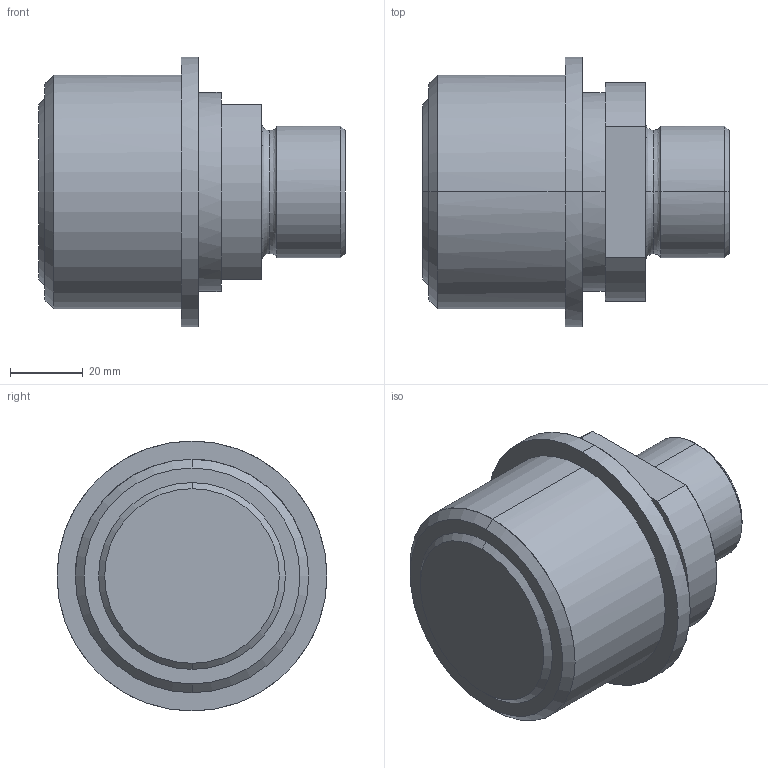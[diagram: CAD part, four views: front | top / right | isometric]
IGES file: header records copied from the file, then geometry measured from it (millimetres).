
Start section: START RECORD GO HERE.
Global section: file name: AGS3422M36.igs; native system: DASSAULT SYSTEMES CATIA V5 R20 - www.3ds.com; preprocessor: CATIA Version 5 Release 20 ; author: Utente; organization: NB04-ASUS; date: 20210221.204617; units: millimetre
Bounding box: 84 x 74 x 74 mm (x, y, z)
Surface area: 23295.2 mm2 (no closed solid volume)
Topology: 0 solids, 0 shells, 32 faces, 180 edges, 180 vertices
Faces by surface type: revolution 20, plane 12
